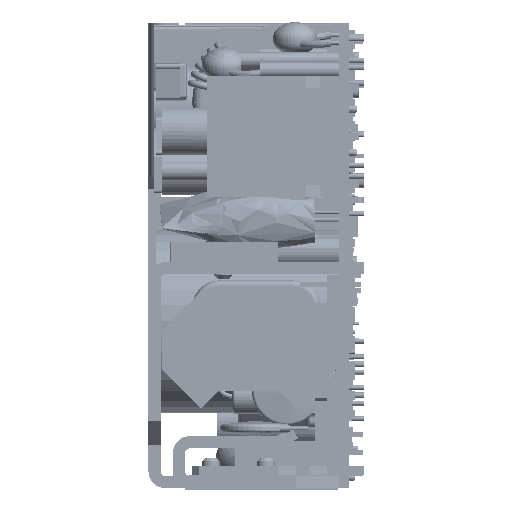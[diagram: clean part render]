
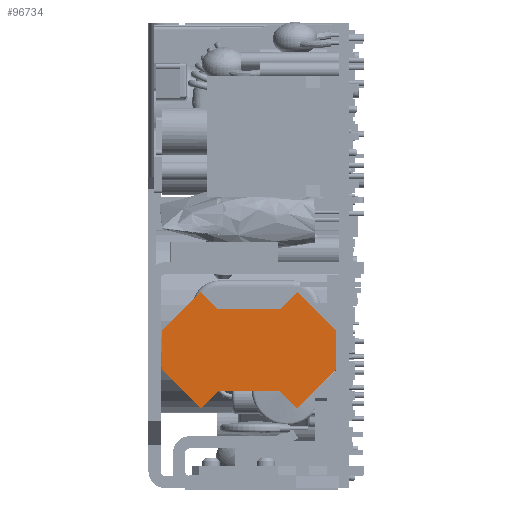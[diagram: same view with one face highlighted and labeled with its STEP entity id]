
A CAD part, left-side view. The second image highlights one B-rep face of the part: STEP entity #96734.
In plain terms, the highlighted planar face has unit normal (-1, 0, 0) as drawn and (0, 0, 1) by its records, which use the part's own axes.
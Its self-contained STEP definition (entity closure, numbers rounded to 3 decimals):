
#29399 = VECTOR ( 'NONE', #45641, 1000. ) ;
#29406 = VECTOR ( 'NONE', #45653, 1000. ) ;
#29434 = VECTOR ( 'NONE', #45693, 1000. ) ;
#29441 = VECTOR ( 'NONE', #45705, 1000. ) ;
#29447 = VECTOR ( 'NONE', #45715, 1000. ) ;
#29453 = VECTOR ( 'NONE', #45724, 1000. ) ;
#29460 = VECTOR ( 'NONE', #45734, 1000. ) ;
#29465 = VECTOR ( 'NONE', #45741, 1000. ) ;
#29468 = VECTOR ( 'NONE', #45749, 1000. ) ;
#29472 = VECTOR ( 'NONE', #45754, 1000. ) ;
#29477 = VECTOR ( 'NONE', #45761, 1000. ) ;
#29484 = VECTOR ( 'NONE', #45772, 1000. ) ;
#30246 = AXIS2_PLACEMENT_3D ( 'NONE', #51403, #51405, #51407 ) ;
#31272 = LINE ( 'NONE', #45639, #29399 ) ;
#31278 = LINE ( 'NONE', #45652, #29406 ) ;
#31295 = LINE ( 'NONE', #45692, #29434 ) ;
#31302 = LINE ( 'NONE', #45704, #29441 ) ;
#31308 = LINE ( 'NONE', #45713, #29447 ) ;
#31314 = LINE ( 'NONE', #45723, #29453 ) ;
#31319 = LINE ( 'NONE', #45732, #29460 ) ;
#31323 = LINE ( 'NONE', #45739, #29465 ) ;
#31327 = LINE ( 'NONE', #45747, #29468 ) ;
#31331 = LINE ( 'NONE', #45753, #29472 ) ;
#31334 = LINE ( 'NONE', #45759, #29477 ) ;
#31340 = LINE ( 'NONE', #45771, #29484 ) ;
#45639 = CARTESIAN_POINT ( 'NONE',  ( 6.75, 19.375, 9.3 ) ) ;
#45641 = DIRECTION ( 'NONE',  ( 0., 1., 0. ) ) ;
#45652 = CARTESIAN_POINT ( 'NONE',  ( -6.75, 19.375, 9.3 ) ) ;
#45653 = DIRECTION ( 'NONE',  ( 0., -1., 0. ) ) ;
#45692 = CARTESIAN_POINT ( 'NONE',  ( -3.175, 0., 9.3 ) ) ;
#45693 = DIRECTION ( 'NONE',  ( 0.707, -0.707, 0. ) ) ;
#45704 = CARTESIAN_POINT ( 'NONE',  ( -3.175, 0., 9.3 ) ) ;
#45705 = DIRECTION ( 'NONE',  ( 1., 0., 0. ) ) ;
#45713 = CARTESIAN_POINT ( 'NONE',  ( 3.175, 0., 9.3 ) ) ;
#45715 = DIRECTION ( 'NONE',  ( 0.707, 0.707, 0. ) ) ;
#45723 = CARTESIAN_POINT ( 'NONE',  ( 9.525, 6.35, 9.3 ) ) ;
#45724 = DIRECTION ( 'NONE',  ( -0.707, 0.707, 0. ) ) ;
#45732 = CARTESIAN_POINT ( 'NONE',  ( 9.525, 22.15, 9.3 ) ) ;
#45734 = DIRECTION ( 'NONE',  ( 0.707, 0.707, 0. ) ) ;
#45739 = CARTESIAN_POINT ( 'NONE',  ( 3.175, 28.5, 9.3 ) ) ;
#45741 = DIRECTION ( 'NONE',  ( -0.707, 0.707, 0. ) ) ;
#45747 = CARTESIAN_POINT ( 'NONE',  ( -3.175, 28.5, 9.3 ) ) ;
#45749 = DIRECTION ( 'NONE',  ( -1., 0., 0. ) ) ;
#45753 = CARTESIAN_POINT ( 'NONE',  ( -3.175, 28.5, 9.3 ) ) ;
#45754 = DIRECTION ( 'NONE',  ( -0.707, -0.707, 0. ) ) ;
#45759 = CARTESIAN_POINT ( 'NONE',  ( -9.525, 22.15, 9.3 ) ) ;
#45761 = DIRECTION ( 'NONE',  ( 0.707, -0.707, 0. ) ) ;
#45771 = CARTESIAN_POINT ( 'NONE',  ( -9.525, 6.35, 9.3 ) ) ;
#45772 = DIRECTION ( 'NONE',  ( -0.707, -0.707, 0. ) ) ;
#51401 = PLANE ( 'NONE',  #30246 ) ;
#51403 = CARTESIAN_POINT ( 'NONE',  ( -9.525, 6.35, 9.3 ) ) ;
#51405 = DIRECTION ( 'NONE',  ( 0., 0., -1. ) ) ;
#51407 = DIRECTION ( 'NONE',  ( -1., 0., 0. ) ) ;
#52670 = FACE_OUTER_BOUND ( 'NONE', #81073, .T. ) ;
#75299 = CARTESIAN_POINT ( 'NONE',  ( 6.75, 19.375, 9.3 ) ) ;
#75302 = CARTESIAN_POINT ( 'NONE',  ( 6.75, 9.125, 9.3 ) ) ;
#75304 = CARTESIAN_POINT ( 'NONE',  ( -6.75, 9.125, 9.3 ) ) ;
#75307 = CARTESIAN_POINT ( 'NONE',  ( -6.75, 19.375, 9.3 ) ) ;
#75330 = CARTESIAN_POINT ( 'NONE',  ( -3.175, 0., 9.3 ) ) ;
#75332 = CARTESIAN_POINT ( 'NONE',  ( -9.525, 6.35, 9.3 ) ) ;
#75337 = CARTESIAN_POINT ( 'NONE',  ( 3.175, 0., 9.3 ) ) ;
#75342 = CARTESIAN_POINT ( 'NONE',  ( 9.525, 6.35, 9.3 ) ) ;
#75348 = CARTESIAN_POINT ( 'NONE',  ( 9.525, 22.15, 9.3 ) ) ;
#75350 = CARTESIAN_POINT ( 'NONE',  ( 3.175, 28.5, 9.3 ) ) ;
#75353 = CARTESIAN_POINT ( 'NONE',  ( -3.175, 28.5, 9.3 ) ) ;
#75356 = CARTESIAN_POINT ( 'NONE',  ( -9.525, 22.15, 9.3 ) ) ;
#81073 = EDGE_LOOP ( 'NONE', ( #95214, #95215, #95216, #95212, #95217, #95218, #95219, #95221, #95223, #95225, #95226, #95227 ) ) ;
#91575 = EDGE_CURVE ( 'NONE', #99486, #99484, #31272, .T. ) ;
#91578 = EDGE_CURVE ( 'NONE', #99491, #99488, #31278, .T. ) ;
#91588 = EDGE_CURVE ( 'NONE', #99510, #99508, #31295, .T. ) ;
#91592 = EDGE_CURVE ( 'NONE', #99508, #99515, #31302, .T. ) ;
#91595 = EDGE_CURVE ( 'NONE', #99515, #99519, #31308, .T. ) ;
#91598 = EDGE_CURVE ( 'NONE', #99519, #99486, #31314, .T. ) ;
#91601 = EDGE_CURVE ( 'NONE', #99484, #99523, #31319, .T. ) ;
#91603 = EDGE_CURVE ( 'NONE', #99523, #99525, #31323, .T. ) ;
#91605 = EDGE_CURVE ( 'NONE', #99525, #99527, #31327, .T. ) ;
#91607 = EDGE_CURVE ( 'NONE', #99527, #99528, #31331, .T. ) ;
#91609 = EDGE_CURVE ( 'NONE', #99528, #99491, #31334, .T. ) ;
#91612 = EDGE_CURVE ( 'NONE', #99488, #99510, #31340, .T. ) ;
#95212 = ORIENTED_EDGE ( 'NONE', *, *, #91598, .T. ) ;
#95214 = ORIENTED_EDGE ( 'NONE', *, *, #91588, .T. ) ;
#95215 = ORIENTED_EDGE ( 'NONE', *, *, #91592, .T. ) ;
#95216 = ORIENTED_EDGE ( 'NONE', *, *, #91595, .T. ) ;
#95217 = ORIENTED_EDGE ( 'NONE', *, *, #91575, .T. ) ;
#95218 = ORIENTED_EDGE ( 'NONE', *, *, #91601, .T. ) ;
#95219 = ORIENTED_EDGE ( 'NONE', *, *, #91603, .T. ) ;
#95221 = ORIENTED_EDGE ( 'NONE', *, *, #91605, .T. ) ;
#95223 = ORIENTED_EDGE ( 'NONE', *, *, #91607, .T. ) ;
#95225 = ORIENTED_EDGE ( 'NONE', *, *, #91609, .T. ) ;
#95226 = ORIENTED_EDGE ( 'NONE', *, *, #91578, .T. ) ;
#95227 = ORIENTED_EDGE ( 'NONE', *, *, #91612, .T. ) ;
#96734 = ADVANCED_FACE ( 'NONE', ( #52670 ), #51401, .F. ) ;
#99484 = VERTEX_POINT ( 'NONE', #75299 ) ;
#99486 = VERTEX_POINT ( 'NONE', #75302 ) ;
#99488 = VERTEX_POINT ( 'NONE', #75304 ) ;
#99491 = VERTEX_POINT ( 'NONE', #75307 ) ;
#99508 = VERTEX_POINT ( 'NONE', #75330 ) ;
#99510 = VERTEX_POINT ( 'NONE', #75332 ) ;
#99515 = VERTEX_POINT ( 'NONE', #75337 ) ;
#99519 = VERTEX_POINT ( 'NONE', #75342 ) ;
#99523 = VERTEX_POINT ( 'NONE', #75348 ) ;
#99525 = VERTEX_POINT ( 'NONE', #75350 ) ;
#99527 = VERTEX_POINT ( 'NONE', #75353 ) ;
#99528 = VERTEX_POINT ( 'NONE', #75356 ) ;
